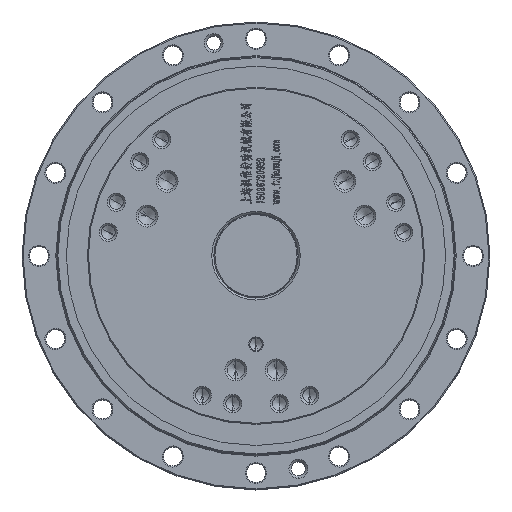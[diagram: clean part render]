
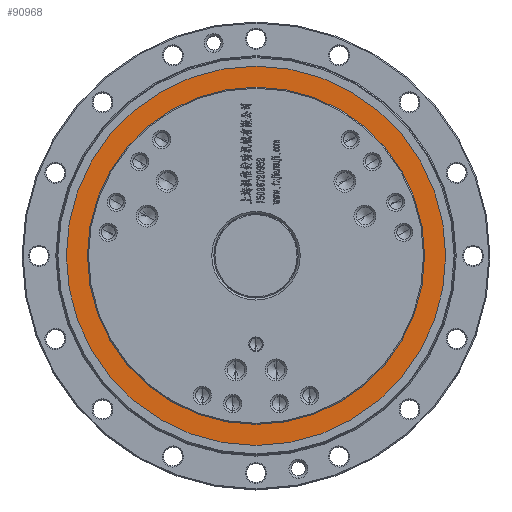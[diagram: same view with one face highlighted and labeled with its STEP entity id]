
A CAD part, top view. The second image highlights one B-rep face of the part: STEP entity #90968.
In plain terms, the highlighted planar face has unit normal (0, 0, 1) as drawn and (0, 0, -1) by its records, which use the part's own axes.
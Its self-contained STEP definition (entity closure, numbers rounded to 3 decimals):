
#3252 = EDGE_CURVE ( 'NONE', #68955, #120726, #128713, .T. ) ;
#17514 = VERTEX_POINT ( 'NONE', #81124 ) ;
#22351 = CARTESIAN_POINT ( 'NONE',  ( 0., 0., -36. ) ) ;
#25378 = EDGE_LOOP ( 'NONE', ( #51549, #62361 ) ) ;
#25934 = CARTESIAN_POINT ( 'NONE',  ( 0., 0., -36. ) ) ;
#28580 = ORIENTED_EDGE ( 'NONE', *, *, #78622, .T. ) ;
#31389 = CIRCLE ( 'NONE', #137452, 80. ) ;
#36992 = PLANE ( 'NONE',  #83095 ) ;
#39022 = FACE_BOUND ( 'NONE', #25378, .T. ) ;
#41602 = EDGE_LOOP ( 'NONE', ( #67605, #28580 ) ) ;
#42382 = DIRECTION ( 'NONE',  ( 1., 0., 0. ) ) ;
#44928 = DIRECTION ( 'NONE',  ( 1., 0., 0. ) ) ;
#51549 = ORIENTED_EDGE ( 'NONE', *, *, #70095, .F. ) ;
#54217 = CARTESIAN_POINT ( 'NONE',  ( 0., 0., -36. ) ) ;
#55693 = DIRECTION ( 'NONE',  ( 1., 0., 0. ) ) ;
#58900 = AXIS2_PLACEMENT_3D ( 'NONE', #54217, #85411, #42382 ) ;
#62361 = ORIENTED_EDGE ( 'NONE', *, *, #3252, .F. ) ;
#63644 = CIRCLE ( 'NONE', #83611, 90. ) ;
#64722 = DIRECTION ( 'NONE',  ( 0., 0., -1. ) ) ;
#67605 = ORIENTED_EDGE ( 'NONE', *, *, #136700, .T. ) ;
#68326 = DIRECTION ( 'NONE',  ( 0., 0., 1. ) ) ;
#68955 = VERTEX_POINT ( 'NONE', #99015 ) ;
#68992 = FACE_OUTER_BOUND ( 'NONE', #41602, .T. ) ;
#69633 = DIRECTION ( 'NONE',  ( 1., 0., 0. ) ) ;
#70095 = EDGE_CURVE ( 'NONE', #120726, #68955, #31389, .T. ) ;
#75530 = DIRECTION ( 'NONE',  ( 0., 0., -1. ) ) ;
#78622 = EDGE_CURVE ( 'NONE', #17514, #88097, #63644, .T. ) ;
#81124 = CARTESIAN_POINT ( 'NONE',  ( -90., 0., -36. ) ) ;
#81147 = DIRECTION ( 'NONE',  ( 1., 0., 0. ) ) ;
#83095 = AXIS2_PLACEMENT_3D ( 'NONE', #25934, #68326, #69633 ) ;
#83611 = AXIS2_PLACEMENT_3D ( 'NONE', #106177, #75530, #44928 ) ;
#85411 = DIRECTION ( 'NONE',  ( 0., 0., -1. ) ) ;
#88097 = VERTEX_POINT ( 'NONE', #126263 ) ;
#89940 = CIRCLE ( 'NONE', #58900, 90. ) ;
#90968 = ADVANCED_FACE ( 'NONE', ( #68992, #39022 ), #36992, .F. ) ;
#99015 = CARTESIAN_POINT ( 'NONE',  ( -80., 0., -36. ) ) ;
#104272 = AXIS2_PLACEMENT_3D ( 'NONE', #111799, #123628, #81147 ) ;
#106177 = CARTESIAN_POINT ( 'NONE',  ( 0., 0., -36. ) ) ;
#108451 = CARTESIAN_POINT ( 'NONE',  ( 80., 0., -36. ) ) ;
#111799 = CARTESIAN_POINT ( 'NONE',  ( 0., 0., -36. ) ) ;
#120726 = VERTEX_POINT ( 'NONE', #108451 ) ;
#123628 = DIRECTION ( 'NONE',  ( 0., 0., -1. ) ) ;
#126263 = CARTESIAN_POINT ( 'NONE',  ( 90., 0., -36. ) ) ;
#128713 = CIRCLE ( 'NONE', #104272, 80. ) ;
#136700 = EDGE_CURVE ( 'NONE', #88097, #17514, #89940, .T. ) ;
#137452 = AXIS2_PLACEMENT_3D ( 'NONE', #22351, #64722, #55693 ) ;
